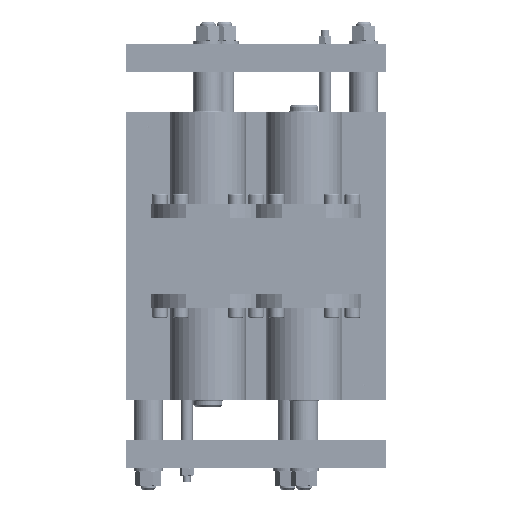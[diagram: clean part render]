
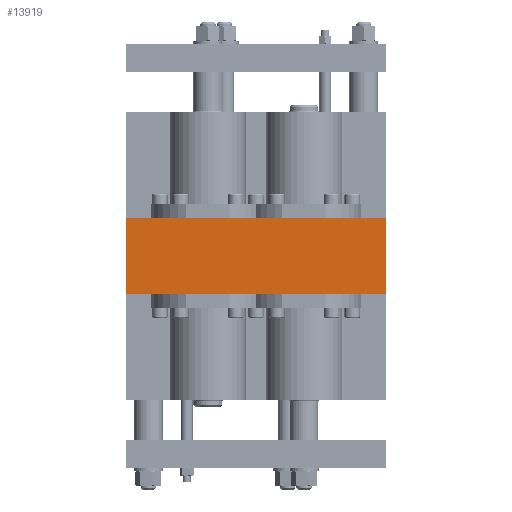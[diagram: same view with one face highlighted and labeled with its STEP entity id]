
A CAD part, front view. The second image highlights one B-rep face of the part: STEP entity #13919.
In plain terms, the highlighted planar face has unit normal (0, -1, 0).
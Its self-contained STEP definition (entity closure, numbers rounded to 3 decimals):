
#13731 = VERTEX_POINT ( 'NONE', #27915 ) ;
#13733 = EDGE_CURVE ( 'NONE', #13731, #13741, #27914, .T. ) ;
#13741 = VERTEX_POINT ( 'NONE', #27960 ) ;
#13846 = ORIENTED_EDGE ( 'NONE', *, *, #13863, .F. ) ;
#13847 = ORIENTED_EDGE ( 'NONE', *, *, #13848, .T. ) ;
#13848 = EDGE_CURVE ( 'NONE', #13864, #13922, #28066, .T. ) ;
#13863 = EDGE_CURVE ( 'NONE', #13864, #13731, #28103, .T. ) ;
#13864 = VERTEX_POINT ( 'NONE', #28099 ) ;
#13867 = EDGE_LOOP ( 'NONE', ( #13920, #13923, #13846, #13847 ) ) ;
#13919 = ADVANCED_FACE ( 'NONE', ( #28178 ), #28177, .F. ) ;
#13920 = ORIENTED_EDGE ( 'NONE', *, *, #13921, .T. ) ;
#13921 = EDGE_CURVE ( 'NONE', #13922, #13741, #28172, .T. ) ;
#13922 = VERTEX_POINT ( 'NONE', #28168 ) ;
#13923 = ORIENTED_EDGE ( 'NONE', *, *, #13733, .F. ) ;
#27911 = DIRECTION ( 'NONE',  ( 1., 0., 0. ) ) ;
#27912 = VECTOR ( 'NONE', #27911, 1000. ) ;
#27913 = CARTESIAN_POINT ( 'NONE',  ( 0., -55., 39.5 ) ) ;
#27914 = LINE ( 'NONE', #27913, #27912 ) ;
#27915 = CARTESIAN_POINT ( 'NONE',  ( -135., -55., 39.5 ) ) ;
#27960 = CARTESIAN_POINT ( 'NONE',  ( 135., -55., 39.5 ) ) ;
#28063 = DIRECTION ( 'NONE',  ( 1., 0., 0. ) ) ;
#28064 = VECTOR ( 'NONE', #28063, 1000. ) ;
#28065 = CARTESIAN_POINT ( 'NONE',  ( 0., -55., -39.5 ) ) ;
#28066 = LINE ( 'NONE', #28065, #28064 ) ;
#28099 = CARTESIAN_POINT ( 'NONE',  ( -135., -55., -39.5 ) ) ;
#28100 = DIRECTION ( 'NONE',  ( 0., 0., 1. ) ) ;
#28101 = VECTOR ( 'NONE', #28100, 1000. ) ;
#28102 = CARTESIAN_POINT ( 'NONE',  ( -135., -55., 0. ) ) ;
#28103 = LINE ( 'NONE', #28102, #28101 ) ;
#28168 = CARTESIAN_POINT ( 'NONE',  ( 135., -55., -39.5 ) ) ;
#28169 = DIRECTION ( 'NONE',  ( 0., 0., 1. ) ) ;
#28170 = VECTOR ( 'NONE', #28169, 1000. ) ;
#28171 = CARTESIAN_POINT ( 'NONE',  ( 135., -55., 0. ) ) ;
#28172 = LINE ( 'NONE', #28171, #28170 ) ;
#28173 = DIRECTION ( 'NONE',  ( -1., 0., 0. ) ) ;
#28174 = DIRECTION ( 'NONE',  ( 0., 1., 0. ) ) ;
#28175 = CARTESIAN_POINT ( 'NONE',  ( 135., -55., -39.5 ) ) ;
#28176 = AXIS2_PLACEMENT_3D ( 'NONE', #28175, #28174, #28173 ) ;
#28177 = PLANE ( 'NONE',  #28176 ) ;
#28178 = FACE_OUTER_BOUND ( 'NONE', #13867, .T. ) ;
